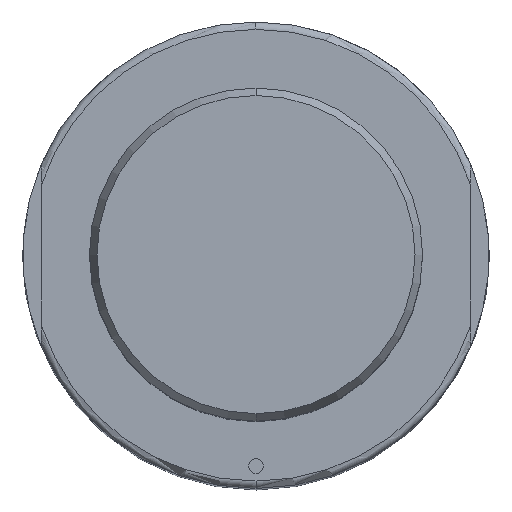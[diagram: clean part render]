
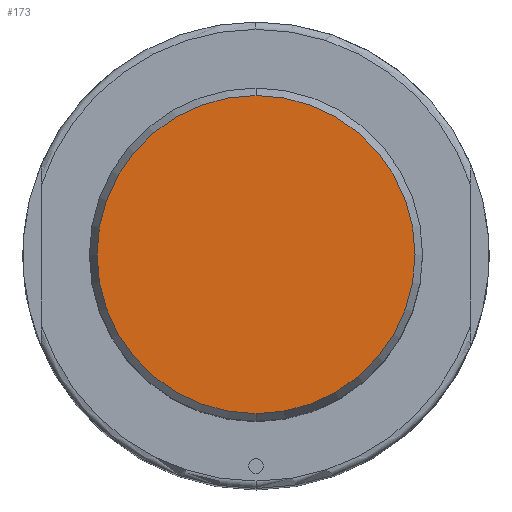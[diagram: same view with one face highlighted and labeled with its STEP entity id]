
A CAD part, top view. The second image highlights one B-rep face of the part: STEP entity #173.
In plain terms, the highlighted planar face has unit normal (0, 0, 1).
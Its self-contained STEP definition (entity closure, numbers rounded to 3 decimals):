
#124=PLANE('',#990);
#173=ADVANCED_FACE('',(#244),#124,.T.);
#244=FACE_OUTER_BOUND('',#297,.T.);
#297=EDGE_LOOP('',(#457,#458));
#364=CIRCLE('',#975,21.481);
#365=CIRCLE('',#977,21.481);
#457=ORIENTED_EDGE('',*,*,#758,.F.);
#458=ORIENTED_EDGE('',*,*,#759,.F.);
#677=VERTEX_POINT('',#1413);
#680=VERTEX_POINT('',#1418);
#758=EDGE_CURVE('',#680,#677,#364,.T.);
#759=EDGE_CURVE('',#677,#680,#365,.T.);
#975=AXIS2_PLACEMENT_3D('',#1419,#1109,#1110);
#977=AXIS2_PLACEMENT_3D('',#1421,#1113,#1114);
#990=AXIS2_PLACEMENT_3D('',#1444,#1143,#1144);
#1109=DIRECTION('',(0.,0.,-1.));
#1110=DIRECTION('',(-1.,0.,0.));
#1113=DIRECTION('',(0.,0.,-1.));
#1114=DIRECTION('',(1.,0.,0.));
#1143=DIRECTION('',(0.,0.,1.));
#1144=DIRECTION('',(0.,-1.,0.));
#1413=CARTESIAN_POINT('',(0.,-21.481,170.));
#1418=CARTESIAN_POINT('',(0.,21.481,170.));
#1419=CARTESIAN_POINT('',(0.,0.,170.));
#1421=CARTESIAN_POINT('',(0.,0.,170.));
#1444=CARTESIAN_POINT('',(0.,0.,170.));
